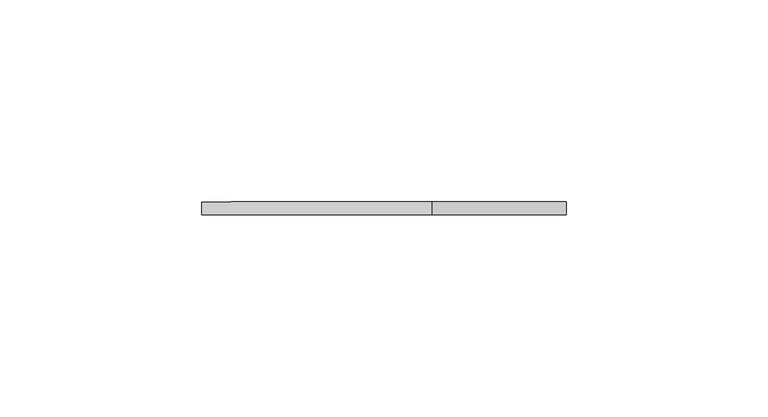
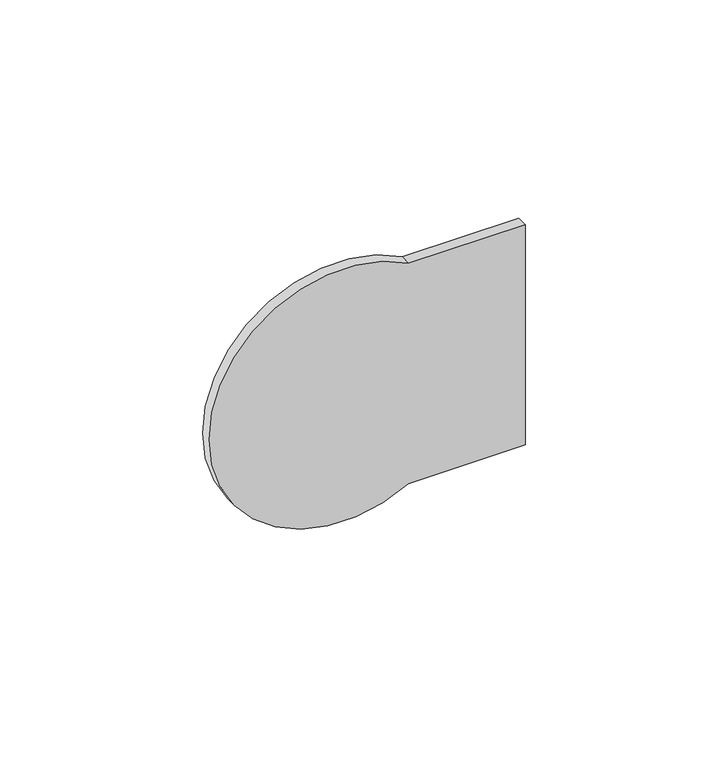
"""IFC4 building model written with IfcOpenShell, lengths in millimetres: proxy geometry, Dispencer-Toilet Paper-2D : Dispencer-Toilet Paper-2D."""

from ifc_helpers import new_model, si_unit, point, frame, frame_2d, origin, place, context, project, spatial, polyline, circle_curve, trimmed, segment, composite_curve, outline, extrude, source, transform, mapped, element, save


def specialty_equipment_a66543ee(model_context):
    return source(origin(), model_context, "Body", "SweptSolid", [
        extrude(outline(composite_curve([segment(polyline([(723.9, 0.0), (723.9, -33.2698082)]), True, "CONTINUOUS"), segment(trimmed(circle_curve(frame_2d((690.7111546, -52.0020162)), 38.1103014), [point((723.9, -33.2698082))], [point((657.5223092, -33.2698082))], False, "CARTESIAN"), True, "CONTINUOUS"), segment(polyline([(657.5223092, -33.2698082), (657.5223092, 0.0), (723.9, 0.0)]), True, "CONTINUOUS")], self_intersect=False)), frame((0.0, -3.175, 0.0), z_axis=(0.0, 1.0, 0.0), x_axis=(0.0, 0.0, 1.0)), (0.0, 0.0, 1.0), 3.175),
    ])


if __name__ == "__main__":
    model = new_model("IFC4")
    model_context = context("Model", 3, world=origin())
    ifc_project = project(units=[si_unit("LENGTHUNIT", "METRE", prefix="MILLI")], contexts=[model_context])
    site = spatial("IfcSite", under=ifc_project)
    building = spatial("IfcBuilding", under=site)
    placement = place(None, origin())
    specialty_equipment_shape = specialty_equipment_a66543ee(model_context)
    element("IfcBuildingElementProxy", 1, Name="Dispencer-Toilet Paper-2D : Dispencer-Toilet Paper-2D", ObjectType="Dispencer-Toilet Paper-2D : Dispencer-Toilet Paper-2D", at=placement, inside=building, context=model_context, shape_type="MappedRepresentation", body=[
        mapped(specialty_equipment_shape, transform((0.0, 0.0, 0.0), x_axis=(1.0, 0.0, 0.0), y_axis=(0.0, 1.0, 0.0), z_axis=(0.0, 0.0, 1.0))),
    ])
    save(model, "model.ifc")
